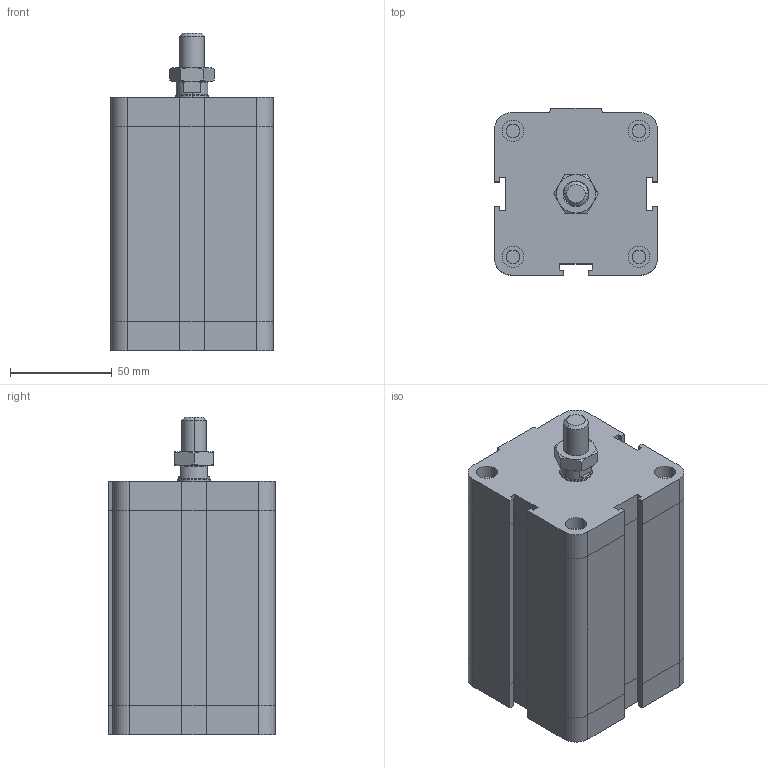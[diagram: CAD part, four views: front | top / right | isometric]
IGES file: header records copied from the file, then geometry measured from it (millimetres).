
Global section: file name: No Iges File Name specified; native system: Autodesk Inventor 2009; preprocessor: AutoDesk Inventor Iges Exporter R2009; author: rivolro1; date: 20081219.162536; units: millimetre
Bounding box: 80 x 82 x 156.5 mm (x, y, z)
Volume: 766036.4 mm3; surface area: 74782.3 mm2
Topology: 3 solids, 3 shells, 216 faces, 472 edges, 282 vertices
Faces by surface type: plane 121, bspline 37, cylinder 20, cone 20, revolution 18
